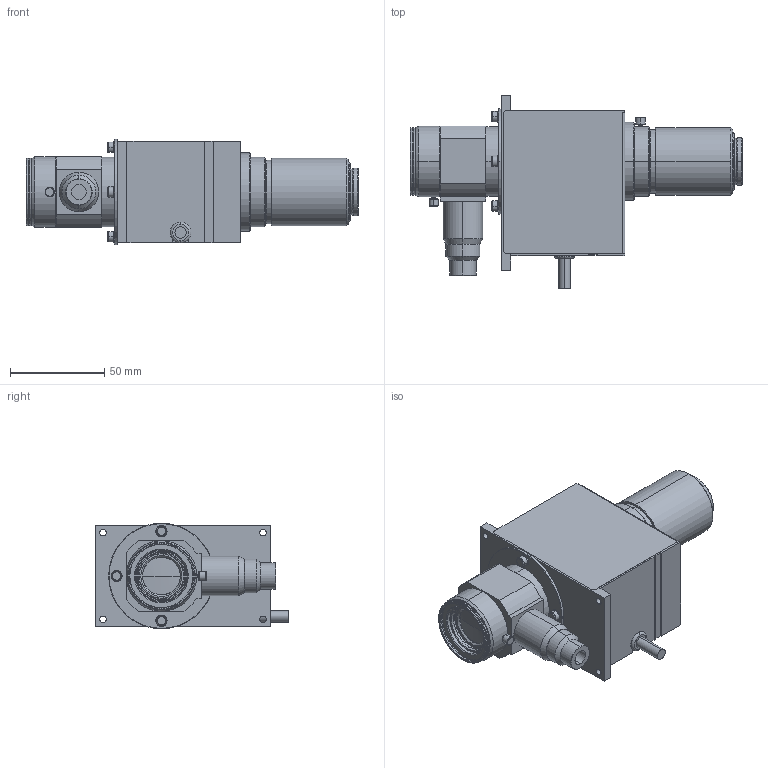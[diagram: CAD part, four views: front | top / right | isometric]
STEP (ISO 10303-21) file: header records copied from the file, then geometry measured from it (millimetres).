
FILE_DESCRIPTION (( 'STEP AP203' ), '1' );
FILE_NAME ('VSZ-0530CO-MR.STEP', '2017-05-10T03:02:40', ( '' ), ( '' ), 'SwSTEP 2.0', 'SolidWorks 2017', '' );
FILE_SCHEMA (( 'CONFIG_CONTROL_DESIGN' ));
Length unit declared in the file: millimetre
Products named in the file (1): VSZ-0530CO-MR
Bounding box: 176.29 x 102.5 x 56 mm (x, y, z)
Volume: 455517.2 mm3; surface area: 108228.6 mm2
Topology: 5 solids, 5 shells, 427 faces, 905 edges, 550 vertices
Faces by surface type: cylinder 147, cone 132, plane 132, torus 12, sphere 4
Entity records: 11608 total; most frequent: DIRECTION 2217, CARTESIAN_POINT 1947, ORIENTED_EDGE 1810, EDGE_CURVE 905, AXIS2_PLACEMENT_3D 888, VERTEX_POINT 550, EDGE_LOOP 501, CIRCLE 460
